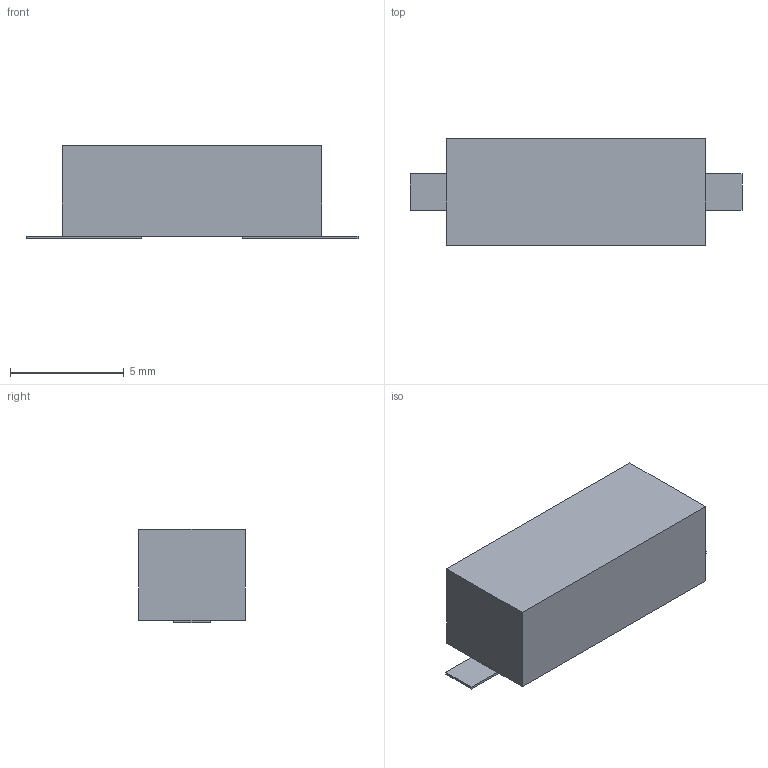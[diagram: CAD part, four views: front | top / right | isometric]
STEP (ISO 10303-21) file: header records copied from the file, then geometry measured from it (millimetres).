
FILE_DESCRIPTION(('FreeCAD Model'),'2;1');
FILE_NAME('/var/www/3D/0T/237146.1.1.stp','2020-04-08T01:11:32',( 'Author'),(''),'Open CASCADE STEP processor 6.9','FreeCAD','Unknown' );
FILE_SCHEMA(('AUTOMOTIVE_DESIGN { 1 0 10303 214 1 1 1 1 }'));
Length unit declared in the file: millimetre
Products named in the file (3): ASSEMBLY; Body; Pins
Assembly tree (2 placements, depth 2):
  ASSEMBLY
    Body
    Pins
Bounding box: 14.6 x 4.7 x 4.1 mm (x, y, z)
Volume: 216 mm3; surface area: 271.3 mm2
Topology: 3 solids, 3 shells, 18 faces, 36 edges, 24 vertices
Faces by surface type: plane 18
Entity records: 1001 total; most frequent: CARTESIAN_POINT 153, DIRECTION 150, LINE 108, VECTOR 108, ORIENTED_EDGE 72, PCURVE 72, DEFINITIONAL_REPRESENTATION 72, EDGE_CURVE 36
